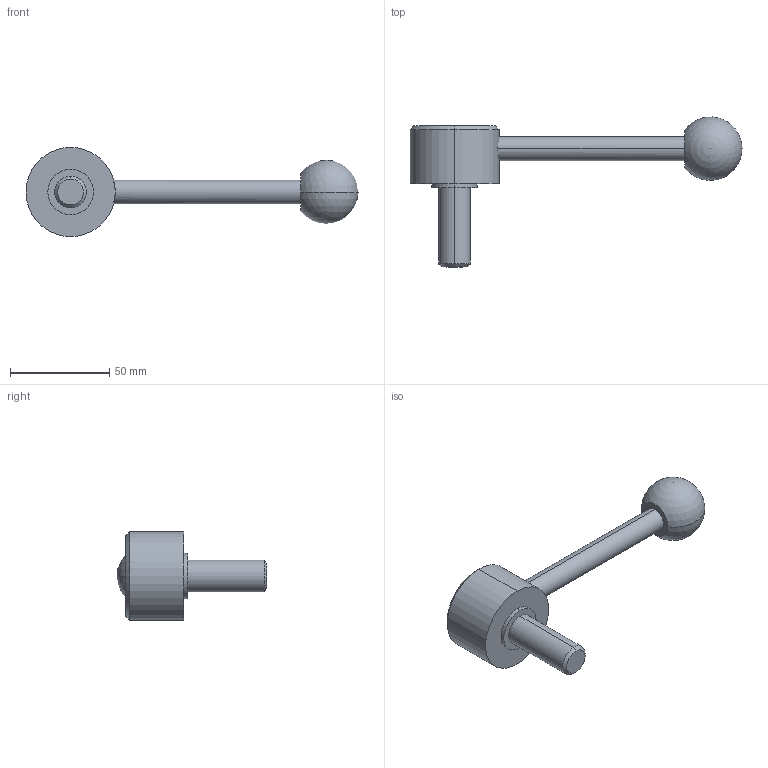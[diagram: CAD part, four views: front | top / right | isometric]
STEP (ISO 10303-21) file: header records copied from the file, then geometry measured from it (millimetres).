
FILE_DESCRIPTION (( 'STEP AP214' ), '1' );
FILE_NAME ('125.5-45-M16-40-D.step', '2020-02-18T11:42:24', ( '' ), ( '' ), 'SwSTEP 2.0', 'SolidWorks 2019', '' );
FILE_SCHEMA (( 'AUTOMOTIVE_DESIGN' ));
Length unit declared in the file: millimetre
Products named in the file (1): 125.5-45-M16-40-D
Bounding box: 167.5 x 75.67 x 45 mm (x, y, z)
Volume: 82468.1 mm3; surface area: 15762.9 mm2
Topology: 1 solids, 1 shells, 22 faces, 47 edges, 30 vertices
Faces by surface type: cylinder 10, plane 6, cone 4, sphere 2
Entity records: 748 total; most frequent: CARTESIAN_POINT 176, DIRECTION 112, ORIENTED_EDGE 84, AXIS2_PLACEMENT_3D 49, EDGE_CURVE 42, VERTEX_POINT 27, EDGE_LOOP 27, CIRCLE 26
